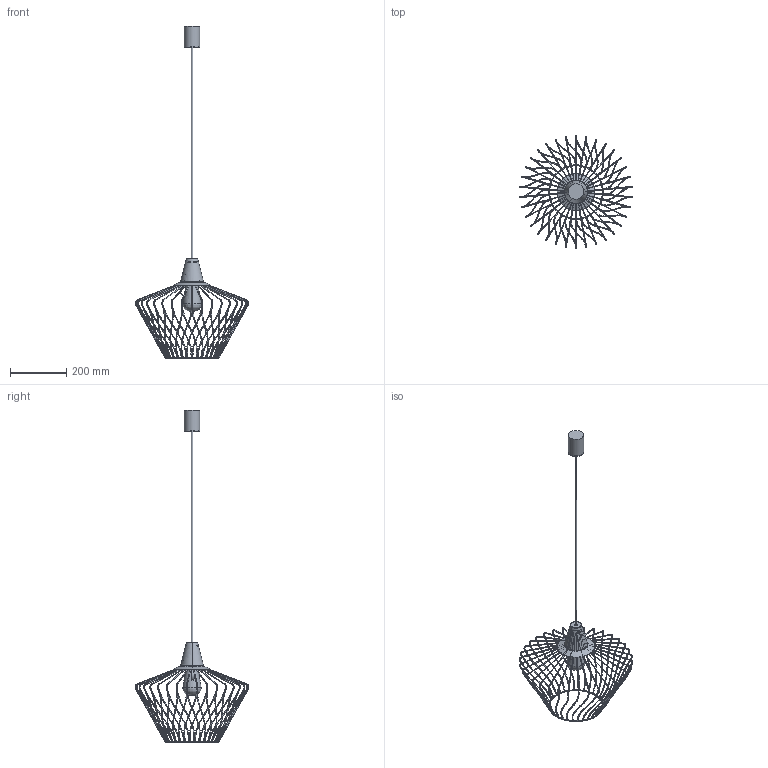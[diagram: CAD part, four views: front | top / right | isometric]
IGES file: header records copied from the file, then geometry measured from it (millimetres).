
Start section: SolidWorks IGES file using analytic representation for surfaces
Global section: file name: X:\PRODUKT\Modele 3D_WWW\_KOLEKCJE WWW\WAVE-S-8860-8858-8861\WAVE-S-8860-8858-8861.IGS; native system: SolidWorks 2021; preprocessor: SolidWorks 2021; author: gabriela.tworek; date: 220829.105038; units: millimetre
Bounding box: 401.28 x 403 x 1177.68 mm (x, y, z)
Surface area: 296055.5 mm2 (no closed solid volume)
Topology: 0 solids, 0 shells, 999 faces, 5869 edges, 5784 vertices
Faces by surface type: bspline 632, revolution 367
